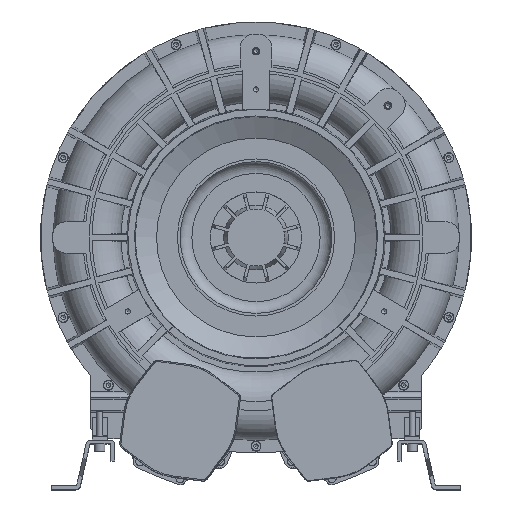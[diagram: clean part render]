
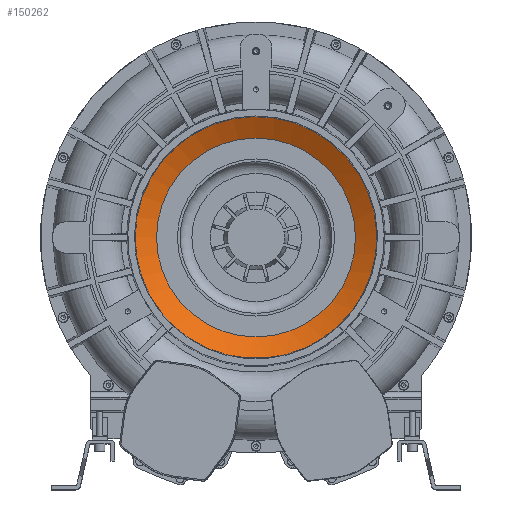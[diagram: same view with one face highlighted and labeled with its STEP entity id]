
A CAD part, top view. The second image highlights one B-rep face of the part: STEP entity #150262.
In plain terms, the highlighted conical face has half-angle 62 degrees and reference radius 131.023 mm.
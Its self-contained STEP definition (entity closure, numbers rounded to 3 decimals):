
#3052 = VERTEX_POINT ( 'NONE', #57959 ) ;
#14492 = DIRECTION ( 'NONE',  ( 0., 0., -1. ) ) ;
#28904 = DIRECTION ( 'NONE',  ( 0., 0., 1. ) ) ;
#57959 = CARTESIAN_POINT ( 'NONE',  ( -131.023, 0., 196.5 ) ) ;
#71163 = DIRECTION ( 'NONE',  ( -1., 0., 0. ) ) ;
#77008 = EDGE_CURVE ( 'NONE', #3052, #3052, #108645, .T. ) ;
#84545 = DIRECTION ( 'NONE',  ( 0., 0., 1. ) ) ;
#91501 = ORIENTED_EDGE ( 'NONE', *, *, #241704, .F. ) ;
#94318 = CARTESIAN_POINT ( 'NONE',  ( 0., 0., 196.5 ) ) ;
#108645 = CIRCLE ( 'NONE', #130437, 131.023 ) ;
#128181 = FACE_BOUND ( 'NONE', #215545, .T. ) ;
#129441 = CIRCLE ( 'NONE', #216603, 159.217 ) ;
#130437 = AXIS2_PLACEMENT_3D ( 'NONE', #94318, #28904, #71163 ) ;
#139074 = EDGE_LOOP ( 'NONE', ( #91501 ) ) ;
#139904 = DIRECTION ( 'NONE',  ( -1., 0., 0. ) ) ;
#150262 = ADVANCED_FACE ( 'NONE', ( #252237, #128181 ), #252104, .F. ) ;
#154635 = ORIENTED_EDGE ( 'NONE', *, *, #77008, .F. ) ;
#163082 = CARTESIAN_POINT ( 'NONE',  ( 0., 0., 211.491 ) ) ;
#204169 = AXIS2_PLACEMENT_3D ( 'NONE', #208609, #84545, #253582 ) ;
#208609 = CARTESIAN_POINT ( 'NONE',  ( 0., 0., 196.5 ) ) ;
#211970 = VERTEX_POINT ( 'NONE', #214634 ) ;
#214634 = CARTESIAN_POINT ( 'NONE',  ( -159.217, 0., 211.491 ) ) ;
#215545 = EDGE_LOOP ( 'NONE', ( #154635 ) ) ;
#216603 = AXIS2_PLACEMENT_3D ( 'NONE', #163082, #14492, #139904 ) ;
#241704 = EDGE_CURVE ( 'NONE', #211970, #211970, #129441, .T. ) ;
#252104 = CONICAL_SURFACE ( 'NONE', #204169, 131.023, 1.082 ) ;
#252237 = FACE_OUTER_BOUND ( 'NONE', #139074, .T. ) ;
#253582 = DIRECTION ( 'NONE',  ( 1., 0., 0. ) ) ;
